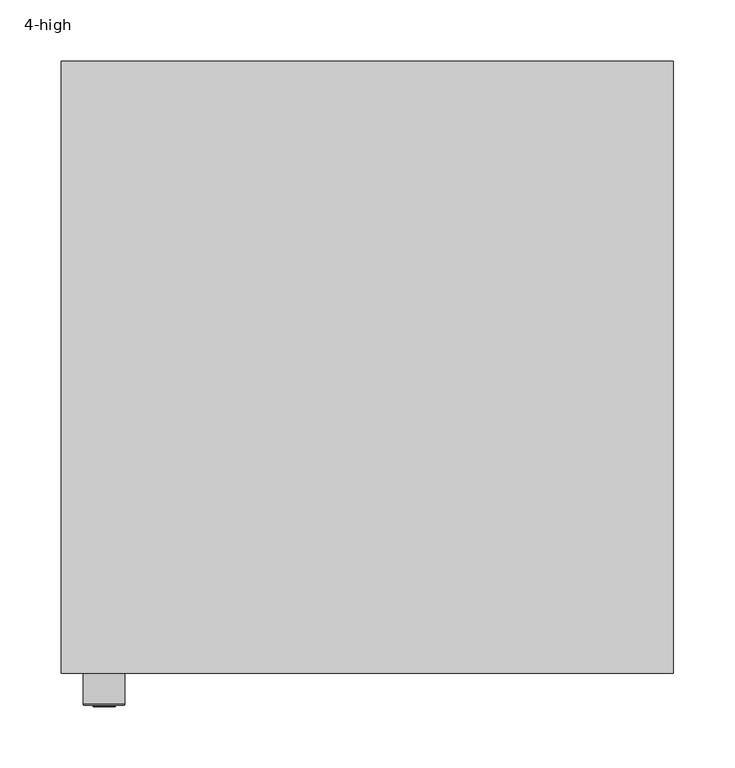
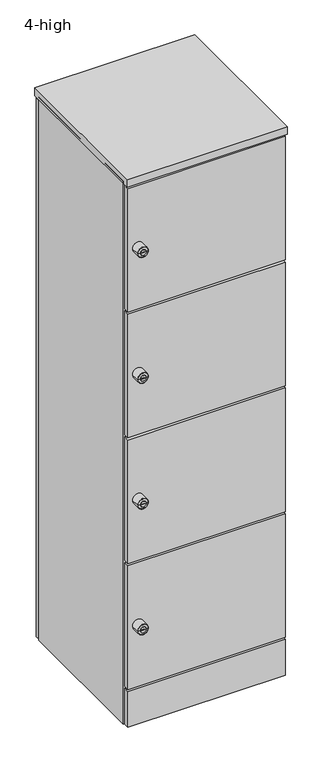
"""IFC4 building model written with IfcOpenShell, lengths in millimetres: furniture geometry, Furniture_Storage_Spacestor_SignatureHotLocker : 4-high."""

import ifcopenshell
import ifcopenshell.guid

model = None  # the IFC model being written
_history = None  # IfcOwnerHistory: only IFC2X3 demands one
_inside = {}  # id of a spatial element -> (the spatial element, [elements in it])
_under = {}  # id of a project, library or spatial element -> (it, [spatial elements below it])
_declared = {}  # id of a project -> (the project, [libraries it declares])
_typed = {}  # id of a type object -> (the type object, [elements of that type])
_made_of = {}  # id of a material, layer set ... -> (it, [elements and type objects made of it])


def new_model(schema):
    """Start an empty IFC model of exactly this schema.

    Asked for "IFC4X3", IfcOpenShell would pick the latest addendum, in which some entities
    have other attributes; the version numbers below select the first issue.
    IFC2X3 requires an IfcOwnerHistory on every rooted entity: one is made here for all.
    """
    global model, _history
    if schema == "IFC4X3":
        model = ifcopenshell.file(schema_version=(4, 3, 0, 0))
    else:
        model = ifcopenshell.file(schema=schema)
    _inside.clear()
    _under.clear()
    _declared.clear()
    _typed.clear()
    _made_of.clear()
    _history = None
    if model.schema == "IFC2X3":
        org = make("IfcOrganization", Name="unknown")
        user = make(
            "IfcPersonAndOrganization",
            ThePerson=make("IfcPerson", FamilyName="unknown"),
            TheOrganization=org,
        )
        app = make(
            "IfcApplication",
            ApplicationDeveloper=org,
            Version="unknown",
            ApplicationFullName="unknown",
            ApplicationIdentifier="unknown",
        )
        _history = make(
            "IfcOwnerHistory",
            OwningUser=user,
            OwningApplication=app,
            ChangeAction="ADDED",
            CreationDate=0,
        )
    return model


def make(cls, **values):
    """One entity of the class cls with the attributes given. An attribute that is None is left unset."""
    return model.create_entity(
        cls, **{name: value for name, value in values.items() if value is not None}
    )


def rooted(cls, **values):
    """An entity with a GlobalId (a new one), such as an element, a storey or a relation."""
    return make(cls, GlobalId=ifcopenshell.guid.new(), OwnerHistory=_history, **values)


def si_unit(unit_type, name, prefix=None):
    """IfcSIUnit, for example si_unit("LENGTHUNIT", "METRE", prefix="MILLI")."""
    return make("IfcSIUnit", UnitType=unit_type, Prefix=prefix, Name=name)


def assignment(units):
    """IfcUnitAssignment: the units of a project."""
    return None if units is None else make("IfcUnitAssignment", Units=units)


def point(xyz):
    """IfcCartesianPoint."""
    return None if xyz is None else make("IfcCartesianPoint", Coordinates=xyz)


def direction(xyz):
    """IfcDirection."""
    return None if xyz is None else make("IfcDirection", DirectionRatios=xyz)


def frame(location, z_axis=None, x_axis=None):
    """IfcAxis2Placement3D, a coordinate frame: its origin and axes. An axis left out is left unset."""
    return make(
        "IfcAxis2Placement3D",
        Location=point(location),
        Axis=direction(z_axis),
        RefDirection=direction(x_axis),
    )


def origin():
    """The frame at (0, 0, 0) with its axes left unset."""
    return frame((0.0, 0.0, 0.0))


def origin_with_axes():
    """The frame at (0, 0, 0) with the z axis (0, 0, 1) and the x axis (1, 0, 0) written out."""
    return frame((0.0, 0.0, 0.0), z_axis=(0.0, 0.0, 1.0), x_axis=(1.0, 0.0, 0.0))


def place(relative_to, where):
    """IfcLocalPlacement: puts the frame where relative to a parent placement (None: the world)."""
    return make(
        "IfcLocalPlacement", PlacementRelTo=relative_to, RelativePlacement=where
    )


def context(
    kind, dimensions, precision=None, world=None, true_north=None, identifier=None
):
    """IfcGeometricRepresentationContext, for example the 3D "Model" context."""
    return make(
        "IfcGeometricRepresentationContext",
        ContextIdentifier=identifier,
        ContextType=kind,
        CoordinateSpaceDimension=dimensions,
        Precision=precision,
        WorldCoordinateSystem=world,
        TrueNorth=true_north,
    )


def project(units=None, contexts=None):
    """IfcProject with its units and contexts."""
    return rooted(
        "IfcProject",
        Name="project",
        RepresentationContexts=contexts,
        UnitsInContext=assignment(units),
    )


def spatial(cls, under=None, at=None, **own):
    """A site, building, storey or space (cls), placed at a placement, below another one or the project."""
    s = rooted(cls, ObjectPlacement=at, **own)
    if under is not None:
        _under.setdefault(under.id(), (under, []))[1].append(s)
    return s


def polyline(points):
    """IfcPolyline through the points."""
    return make("IfcPolyline", Points=[point(p) for p in points])


def circle_curve(where, radius):
    """IfcCircle in the frame where."""
    return make("IfcCircle", Position=where, Radius=radius)


def ellipse_curve(where, semi_axis1, semi_axis2):
    """IfcEllipse in the frame where."""
    return make(
        "IfcEllipse", Position=where, SemiAxis1=semi_axis1, SemiAxis2=semi_axis2
    )


def trimmed(basis, trim1, trim2, sense, master):
    """IfcTrimmedCurve: the piece of a basis curve between two trims."""
    return make(
        "IfcTrimmedCurve",
        BasisCurve=basis,
        Trim1=trim1,
        Trim2=trim2,
        SenseAgreement=sense,
        MasterRepresentation=master,
    )


def outline(outer, holes=None, kind="AREA"):
    """IfcArbitraryClosedProfileDef: a profile drawn as a closed curve; with holes, ...WithVoids."""
    if holes is None:
        return make("IfcArbitraryClosedProfileDef", ProfileType=kind, OuterCurve=outer)
    return make(
        "IfcArbitraryProfileDefWithVoids",
        ProfileType=kind,
        OuterCurve=outer,
        InnerCurves=holes,
    )


def extrude(swept, where, along, depth):
    """IfcExtrudedAreaSolid: the profile swept, set in the frame where, extruded along a direction by depth."""
    return make(
        "IfcExtrudedAreaSolid",
        SweptArea=swept,
        Position=where,
        ExtrudedDirection=direction(along),
        Depth=depth,
    )


def shape(context_of_items, identifier, shape_type, items):
    """IfcShapeRepresentation: the items that make up one representation, for example the "Body"."""
    return make(
        "IfcShapeRepresentation",
        ContextOfItems=context_of_items,
        RepresentationIdentifier=identifier,
        RepresentationType=shape_type,
        Items=items,
    )


def source(mapping_origin, context_of_items, identifier, shape_type, items):
    """IfcRepresentationMap: a shape defined once, which mapped items show again and again."""
    return make(
        "IfcRepresentationMap",
        MappingOrigin=mapping_origin,
        MappedRepresentation=shape(context_of_items, identifier, shape_type, items),
    )


def transform(
    local_origin,
    x_axis=None,
    y_axis=None,
    z_axis=None,
    scale=None,
    scale2=None,
    scale3=None,
    uniform=True,
):
    """IfcCartesianTransformationOperator3D, or its non-uniform kind. x_axis, y_axis, z_axis: its Axis1, 2, 3."""
    if uniform:
        return make(
            "IfcCartesianTransformationOperator3D",
            Axis1=direction(x_axis),
            Axis2=direction(y_axis),
            LocalOrigin=point(local_origin),
            Scale=scale,
            Axis3=direction(z_axis),
        )
    return make(
        "IfcCartesianTransformationOperator3DnonUniform",
        Axis1=direction(x_axis),
        Axis2=direction(y_axis),
        LocalOrigin=point(local_origin),
        Scale=scale,
        Axis3=direction(z_axis),
        Scale2=scale2,
        Scale3=scale3,
    )


def mapped(mapping_source, mapping_target):
    """IfcMappedItem: shows the shape of a source again, moved by a transform."""
    return make(
        "IfcMappedItem", MappingSource=mapping_source, MappingTarget=mapping_target
    )


def made_of(thing, what):
    """Note that an element or type object is made of a material, layer set ...; save() writes the relation."""
    if what is not None:
        _made_of.setdefault(what.id(), (what, []))[1].append(thing)
    return thing


def element(
    cls,
    number,
    at=None,
    inside=None,
    cuts=None,
    type_object=None,
    material=None,
    context=None,
    identifier="Body",
    shape_type=None,
    held_by="IfcProductDefinitionShape",
    body=None,
    shapes=None,
    **own,
):
    """One element of the class cls, such as IfcWall. Its Tag is "e" and its number.

    at: its placement. inside: the storey or other place that contains it. cuts: it is an
    opening in that element (IfcRelVoidsElement). A single representation is given by context,
    identifier, shape_type and body (its items); several are given by shapes. held_by: the class
    of the entity that holds the representations. save() writes the other relations.
    """
    e = rooted(cls, Tag="e%d" % number, ObjectPlacement=at, **own)
    if body is not None:
        shapes = [shape(context, identifier, shape_type, body)]
    if shapes is not None:
        e.Representation = make(held_by, Representations=shapes)
    if inside is not None:
        _inside.setdefault(inside.id(), (inside, []))[1].append(e)
    if cuts is not None:
        rooted(
            "IfcRelVoidsElement", RelatingBuildingElement=cuts, RelatedOpeningElement=e
        )
    if type_object is not None:
        _typed.setdefault(type_object.id(), (type_object, []))[1].append(e)
    return made_of(e, material)


def aggregate(whole, parts):
    """IfcRelAggregates: a whole, such as a stair, and the parts it consists of."""
    return rooted("IfcRelAggregates", RelatingObject=whole, RelatedObjects=parts)


def save(model, path):
    """Write the relations noted so far, then the file.

    IfcRelAggregates (storeys below a building ...), IfcRelContainedInSpatialStructure (elements
    in a storey), IfcRelDefinesByType, IfcRelAssociatesMaterial and IfcRelDeclares: one each for
    every whole, place, type object, material and project.
    """
    for whole, parts in _under.values():
        aggregate(whole, parts)
    for where, things in _inside.values():
        rooted(
            "IfcRelContainedInSpatialStructure",
            RelatedElements=things,
            RelatingStructure=where,
        )
    for kind, things in _typed.values():
        rooted("IfcRelDefinesByType", RelatedObjects=things, RelatingType=kind)
    for what, things in _made_of.values():
        rooted("IfcRelAssociatesMaterial", RelatedObjects=things, RelatingMaterial=what)
    for by, libraries in _declared.values():
        rooted("IfcRelDeclares", RelatingContext=by, RelatedDefinitions=libraries)
    model.write(path)


def plane_surface(at):
    """IfcPlane: the flat surface through the origin of the frame at, square to its z axis."""
    return make("IfcPlane", Position=at)


def cylinder_surface(at, radius):
    """IfcCylindricalSurface: all points at the distance radius from the z axis of the frame at."""
    return make("IfcCylindricalSurface", Position=at, Radius=radius)


def revolved_surface(curve, axis_point, axis_direction):
    """IfcSurfaceOfRevolution: the curve turned about the line through axis_point along axis_direction."""
    return make(
        "IfcSurfaceOfRevolution",
        SweptCurve=make("IfcArbitraryOpenProfileDef", ProfileType="CURVE", Curve=curve),
        AxisPosition=make("IfcAxis1Placement", Location=point(axis_point), Axis=direction(axis_direction)),
    )


def advanced_brep(points, edges, surfaces, faces):
    """IfcAdvancedBrep: a solid bounded by faces that lie on surfaces and meet in shared edges.

    An edge is (start, end): straight between two places in points (the first is 0);
    or (start, end, curve); or (start, end, curve, False) where it runs against its curve.
    A face is (place in surfaces, loops), or (place, loops, False) where it looks against
    its surface's normal. A loop lists edges by number (the first is 1), with a minus sign
    where the edge is run from its end to its start. The first loop is the outer one.
    """
    corners = [point(p) for p in points]
    vertices = [make("IfcVertexPoint", VertexGeometry=c) for c in corners]
    made = []
    for start, end, *more in edges:
        made.append(
            make(
                "IfcEdgeCurve",
                EdgeStart=vertices[start],
                EdgeEnd=vertices[end],
                EdgeGeometry=more[0] if more else make("IfcPolyline", Points=[corners[start], corners[end]]),
                SameSense=more[1] if len(more) > 1 else True,
            )
        )
    hull = []
    for where, loops, *sense in faces:
        bounds = []
        for j, loop in enumerate(loops):
            ring = [make("IfcOrientedEdge", EdgeElement=made[abs(k) - 1], Orientation=k > 0) for k in loop]
            bounds.append(
                make(
                    "IfcFaceOuterBound" if j == 0 else "IfcFaceBound",
                    Bound=make("IfcEdgeLoop", EdgeList=ring),
                    Orientation=True,
                )
            )
        hull.append(make("IfcAdvancedFace", Bounds=bounds, FaceSurface=surfaces[where], SameSense=sense[0] if sense else True))
    return make("IfcAdvancedBrep", Outer=make("IfcClosedShell", CfsFaces=hull))


def furniture_4_high_ba79d616(model_context):
    return source(origin(), model_context, "Body", "SolidModel", [
        extrude(outline(polyline([(489.0, 0.0), (11.0, 0.0), (11.0, 459.0), (489.0, 459.0), (489.0, 0.0)])), frame((0.0, 0.0, 1774.5), z_axis=(0.0, 0.0, 1.0), x_axis=(1.0, 0.0, 0.0)), (0.0, 0.0, 1.0), 22.0),
        extrude(outline(polyline([(489.0, 0.0), (11.0, 0.0), (11.0, 459.0), (489.0, 459.0), (489.0, 0.0)])), frame((0.0, 0.0, 1358.5), z_axis=(0.0, 0.0, 1.0), x_axis=(1.0, 0.0, 0.0)), (0.0, 0.0, 1.0), 22.0),
        extrude(outline(polyline([(489.0, 0.0), (11.0, 0.0), (11.0, 459.0), (489.0, 459.0), (489.0, 0.0)])), frame((0.0, 0.0, 942.5), z_axis=(0.0, 0.0, 1.0), x_axis=(1.0, 0.0, 0.0)), (0.0, 0.0, 1.0), 22.0),
        extrude(outline(polyline([(489.0, 0.0), (11.0, 0.0), (11.0, 459.0), (489.0, 459.0), (489.0, 0.0)])), frame((0.0, 0.0, 526.5), z_axis=(0.0, 0.0, 1.0), x_axis=(1.0, 0.0, 0.0)), (0.0, 0.0, 1.0), 22.0),
        advanced_brep(
        [(18.0, -45.3116344, 1577.5), (52.0, -45.3116344, 1577.5), (52.0, -18.0, 1577.5), (18.0, -18.0, 1577.5), (35.0, -18.0, 1577.5), (26.0252681, -46.3150077, 1577.5), (43.9747319, -46.3150077, 1577.5), (50.9966266, -46.3150077, 1577.5), (19.0033734, -46.3150077, 1577.5), (26.0252681, -47.4703043, 1577.5), (43.9747319, -47.4703043, 1577.5), (30.1754848, -47.4703043, 1577.5), (30.1754848, -47.4703043, 1578.8633438), (39.8245152, -47.4703043, 1578.8633438), (39.8245152, -47.4703043, 1577.5), (39.8245152, -47.4703043, 1576.1366562), (30.1754848, -47.4703043, 1576.1366562), (39.8245152, -27.8604291, 1578.8633438), (30.1754848, -27.8604291, 1578.8633438), (30.1754848, -27.8604291, 1576.1366562), (39.8245152, -27.8604291, 1576.1366562)],
        [
            (0, 1, circle_curve(frame((35.0, -45.3116344, 1577.5), z_axis=(0.0, 1.0, 0.0), x_axis=(1.0, 0.0, 0.0)), 17.0)),
            (1, 2),
            (2, 3, circle_curve(frame((35.0, -18.0, 1577.5), z_axis=(0.0, -1.0, 0.0), x_axis=(1.0, 0.0, 0.0)), 17.0)),
            (3, 0),
            (1, 0, circle_curve(frame((35.0, -45.3116344, 1577.5), z_axis=(0.0, 1.0, 0.0), x_axis=(1.0, 0.0, 0.0)), 17.0)),
            (3, 2, circle_curve(frame((35.0, -18.0, 1577.5), z_axis=(0.0, -1.0, 0.0), x_axis=(1.0, 0.0, 0.0)), 17.0)),
            (2, 4),
            (4, 3),
            (5, 6, circle_curve(frame((35.0, -46.3150077, 1577.5), z_axis=(0.0, 1.0, 0.0), x_axis=(1.0, 0.0, 0.0)), 8.9747319)),
            (6, 7),
            (7, 8, circle_curve(frame((35.0, -46.3150077, 1577.5), z_axis=(0.0, -1.0, 0.0), x_axis=(1.0, 0.0, 0.0)), 15.9966266)),
            (8, 5),
            (6, 5, circle_curve(frame((35.0, -46.3150077, 1577.5), z_axis=(0.0, 1.0, 0.0), x_axis=(1.0, 0.0, 0.0)), 8.9747319)),
            (8, 7, circle_curve(frame((35.0, -46.3150077, 1577.5), z_axis=(0.0, -1.0, 0.0), x_axis=(1.0, 0.0, 0.0)), 15.9966266)),
            (0, 8, circle_curve(frame((19.0033734, -45.3116344, 1577.5), z_axis=(0.0, 0.0, 1.0), x_axis=(-1.0, 0.0, 0.0)), 1.0033734)),
            (7, 1, circle_curve(frame((50.9966266, -45.3116344, 1577.5), z_axis=(0.0, 0.0, 1.0), x_axis=(1.0, 0.0, 0.0)), 1.0033734)),
            (5, 9),
            (9, 10, circle_curve(frame((35.0, -47.4703043, 1577.5), z_axis=(0.0, 1.0, 0.0), x_axis=(1.0, 0.0, 0.0)), 8.9747319)),
            (10, 6),
            (10, 9, circle_curve(frame((35.0, -47.4703043, 1577.5), z_axis=(0.0, 1.0, 0.0), x_axis=(1.0, 0.0, 0.0)), 8.9747319)),
            (9, 11),
            (11, 12),
            (12, 13),
            (13, 14),
            (14, 10),
            (14, 15),
            (15, 16),
            (16, 11),
            (17, 18),
            (18, 19),
            (19, 20),
            (20, 17),
            (17, 13),
            (12, 18),
            (16, 19),
            (15, 20),
        ],
        [
            cylinder_surface(frame((35.0, -2627.0581012, 1577.5), z_axis=(0.0, -1.0, 0.0), x_axis=(1.0, 0.0, 0.0)), 17.0),
            plane_surface(frame((35.0, -18.0, 1577.5), z_axis=(0.0, 1.0, 0.0), x_axis=(1.0, 0.0, 0.0))),
            plane_surface(frame((35.0, -46.3150077, 1577.5), z_axis=(0.0, -1.0, 0.0), x_axis=(1.0, 0.0, 0.0))),
            revolved_surface(trimmed(ellipse_curve(frame((50.9966266, -45.3116344, 1577.5), z_axis=(0.0, 0.0, -1.0), x_axis=(1.0, 0.0, 0.0)), 1.0033734, 1.0033734), [point((52.0, -45.3116344, 1577.5))], [point((50.9966266, -46.3150077, 1577.5))], True, "CARTESIAN"), (35.0, -2627.0581012, 1577.5), (0.0, -1.0, 0.0)),
            cylinder_surface(frame((35.0, -2627.0581012, 1577.5), z_axis=(0.0, -1.0, 0.0), x_axis=(1.0, 0.0, 0.0)), 8.9747319),
            plane_surface(frame((35.0, -47.4703043, 1577.5), z_axis=(0.0, -1.0, 0.0), x_axis=(1.0, 0.0, 0.0))),
            plane_surface(frame((30.5434751, -27.8604291, 1578.8633438), z_axis=(0.0, -1.0, 0.0), x_axis=(1.0, 0.0, 0.0))),
            plane_surface(frame((39.8245152, -49.2046383, 1578.8633438), z_axis=(0.0, 0.0, -1.0), x_axis=(0.0, 1.0, 0.0))),
            plane_surface(frame((30.1754848, -49.2046383, 1578.8633438), z_axis=(1.0, 0.0, 0.0), x_axis=(0.0, 1.0, 0.0))),
            plane_surface(frame((30.1754848, -49.2046383, 1576.1366562), z_axis=(0.0, 0.0, 1.0), x_axis=(0.0, 1.0, 0.0))),
            plane_surface(frame((39.8245152, -49.2046383, 1576.1366562), z_axis=(-1.0, 0.0, 0.0), x_axis=(0.0, 1.0, 0.0))),
        ],
        [
            (0, [[1, 2, 3, 4]]),
            (0, [[-2, 5, -4, 6]]),
            (1, [[-3, 7, 8]]),
            (1, [[-6, -8, -7]]),
            (2, [[9, 10, 11, 12]]),
            (2, [[-10, 13, -12, 14]]),
            (3, [[-1, 15, -11, 16]]),
            (3, [[-5, -16, -14, -15]]),
            (4, [[-9, 17, 18, 19]]),
            (4, [[-13, -19, 20, -17]]),
            (5, [[-18, 21, 22, 23, 24, 25]]),
            (5, [[-20, -25, 26, 27, 28, -21]]),
            (6, [[29, 30, 31, 32]]),
            (7, [[-29, 33, -23, 34]]),
            (8, [[-30, -34, -22, -28, 35]]),
            (9, [[-31, -35, -27, 36]]),
            (10, [[-32, -36, -26, -24, -33]]),
        ],
    ),
        advanced_brep(
        [(18.0, -45.3116344, 1161.5), (52.0, -45.3116344, 1161.5), (52.0, -18.0, 1161.5), (18.0, -18.0, 1161.5), (35.0, -18.0, 1161.5), (26.0252681, -46.3150077, 1161.5), (43.9747319, -46.3150077, 1161.5), (50.9966266, -46.3150077, 1161.5), (19.0033734, -46.3150077, 1161.5), (26.0252681, -47.4703043, 1161.5), (43.9747319, -47.4703043, 1161.5), (30.1754848, -47.4703043, 1161.5), (30.1754848, -47.4703043, 1162.8633438), (39.8245152, -47.4703043, 1162.8633438), (39.8245152, -47.4703043, 1161.5), (39.8245152, -47.4703043, 1160.1366562), (30.1754848, -47.4703043, 1160.1366562), (39.8245152, -27.8604291, 1162.8633438), (30.1754848, -27.8604291, 1162.8633438), (30.1754848, -27.8604291, 1160.1366562), (39.8245152, -27.8604291, 1160.1366562)],
        [
            (0, 1, circle_curve(frame((35.0, -45.3116344, 1161.5), z_axis=(0.0, 1.0, 0.0), x_axis=(1.0, 0.0, 0.0)), 17.0)),
            (1, 2),
            (2, 3, circle_curve(frame((35.0, -18.0, 1161.5), z_axis=(0.0, -1.0, 0.0), x_axis=(1.0, 0.0, 0.0)), 17.0)),
            (3, 0),
            (1, 0, circle_curve(frame((35.0, -45.3116344, 1161.5), z_axis=(0.0, 1.0, 0.0), x_axis=(1.0, 0.0, 0.0)), 17.0)),
            (3, 2, circle_curve(frame((35.0, -18.0, 1161.5), z_axis=(0.0, -1.0, 0.0), x_axis=(1.0, 0.0, 0.0)), 17.0)),
            (2, 4),
            (4, 3),
            (5, 6, circle_curve(frame((35.0, -46.3150077, 1161.5), z_axis=(0.0, 1.0, 0.0), x_axis=(1.0, 0.0, 0.0)), 8.9747319)),
            (6, 7),
            (7, 8, circle_curve(frame((35.0, -46.3150077, 1161.5), z_axis=(0.0, -1.0, 0.0), x_axis=(1.0, 0.0, 0.0)), 15.9966266)),
            (8, 5),
            (6, 5, circle_curve(frame((35.0, -46.3150077, 1161.5), z_axis=(0.0, 1.0, 0.0), x_axis=(1.0, 0.0, 0.0)), 8.9747319)),
            (8, 7, circle_curve(frame((35.0, -46.3150077, 1161.5), z_axis=(0.0, -1.0, 0.0), x_axis=(1.0, 0.0, 0.0)), 15.9966266)),
            (0, 8, circle_curve(frame((19.0033734, -45.3116344, 1161.5), z_axis=(0.0, 0.0, 1.0), x_axis=(-1.0, 0.0, 0.0)), 1.0033734)),
            (7, 1, circle_curve(frame((50.9966266, -45.3116344, 1161.5), z_axis=(0.0, 0.0, 1.0), x_axis=(1.0, 0.0, 0.0)), 1.0033734)),
            (5, 9),
            (9, 10, circle_curve(frame((35.0, -47.4703043, 1161.5), z_axis=(0.0, 1.0, 0.0), x_axis=(1.0, 0.0, 0.0)), 8.9747319)),
            (10, 6),
            (10, 9, circle_curve(frame((35.0, -47.4703043, 1161.5), z_axis=(0.0, 1.0, 0.0), x_axis=(1.0, 0.0, 0.0)), 8.9747319)),
            (9, 11),
            (11, 12),
            (12, 13),
            (13, 14),
            (14, 10),
            (14, 15),
            (15, 16),
            (16, 11),
            (17, 18),
            (18, 19),
            (19, 20),
            (20, 17),
            (17, 13),
            (12, 18),
            (16, 19),
            (15, 20),
        ],
        [
            cylinder_surface(frame((35.0, -2627.0581012, 1161.5), z_axis=(0.0, -1.0, 0.0), x_axis=(1.0, 0.0, 0.0)), 17.0),
            plane_surface(frame((35.0, -18.0, 1161.5), z_axis=(0.0, 1.0, 0.0), x_axis=(1.0, 0.0, 0.0))),
            plane_surface(frame((35.0, -46.3150077, 1161.5), z_axis=(0.0, -1.0, 0.0), x_axis=(1.0, 0.0, 0.0))),
            revolved_surface(trimmed(ellipse_curve(frame((50.9966266, -45.3116344, 1161.5), z_axis=(0.0, 0.0, -1.0), x_axis=(1.0, 0.0, 0.0)), 1.0033734, 1.0033734), [point((52.0, -45.3116344, 1161.5))], [point((50.9966266, -46.3150077, 1161.5))], True, "CARTESIAN"), (35.0, -2627.0581012, 1161.5), (0.0, -1.0, 0.0)),
            cylinder_surface(frame((35.0, -2627.0581012, 1161.5), z_axis=(0.0, -1.0, 0.0), x_axis=(1.0, 0.0, 0.0)), 8.9747319),
            plane_surface(frame((35.0, -47.4703043, 1161.5), z_axis=(0.0, -1.0, 0.0), x_axis=(1.0, 0.0, 0.0))),
            plane_surface(frame((30.5434751, -27.8604291, 1162.8633438), z_axis=(0.0, -1.0, 0.0), x_axis=(1.0, 0.0, 0.0))),
            plane_surface(frame((39.8245152, -49.2046383, 1162.8633438), z_axis=(0.0, 0.0, -1.0), x_axis=(0.0, 1.0, 0.0))),
            plane_surface(frame((30.1754848, -49.2046383, 1162.8633438), z_axis=(1.0, 0.0, 0.0), x_axis=(0.0, 1.0, 0.0))),
            plane_surface(frame((30.1754848, -49.2046383, 1160.1366562), z_axis=(0.0, 0.0, 1.0), x_axis=(0.0, 1.0, 0.0))),
            plane_surface(frame((39.8245152, -49.2046383, 1160.1366562), z_axis=(-1.0, 0.0, 0.0), x_axis=(0.0, 1.0, 0.0))),
        ],
        [
            (0, [[1, 2, 3, 4]]),
            (0, [[-2, 5, -4, 6]]),
            (1, [[-3, 7, 8]]),
            (1, [[-6, -8, -7]]),
            (2, [[9, 10, 11, 12]]),
            (2, [[-10, 13, -12, 14]]),
            (3, [[-1, 15, -11, 16]]),
            (3, [[-5, -16, -14, -15]]),
            (4, [[-9, 17, 18, 19]]),
            (4, [[-13, -19, 20, -17]]),
            (5, [[-18, 21, 22, 23, 24, 25]]),
            (5, [[-20, -25, 26, 27, 28, -21]]),
            (6, [[29, 30, 31, 32]]),
            (7, [[-29, 33, -23, 34]]),
            (8, [[-30, -34, -22, -28, 35]]),
            (9, [[-31, -35, -27, 36]]),
            (10, [[-32, -36, -26, -24, -33]]),
        ],
    ),
        advanced_brep(
        [(18.0, -45.3116344, 745.5), (52.0, -45.3116344, 745.5), (52.0, -18.0, 745.5), (18.0, -18.0, 745.5), (35.0, -18.0, 745.5), (26.0252681, -46.3150077, 745.5), (43.9747319, -46.3150077, 745.5), (50.9966266, -46.3150077, 745.5), (19.0033734, -46.3150077, 745.5), (26.0252681, -47.4703043, 745.5), (43.9747319, -47.4703043, 745.5), (30.1754848, -47.4703043, 745.5), (30.1754848, -47.4703043, 746.8633438), (39.8245152, -47.4703043, 746.8633438), (39.8245152, -47.4703043, 745.5), (39.8245152, -47.4703043, 744.1366562), (30.1754848, -47.4703043, 744.1366562), (39.8245152, -27.8604291, 746.8633438), (30.1754848, -27.8604291, 746.8633438), (30.1754848, -27.8604291, 744.1366562), (39.8245152, -27.8604291, 744.1366562)],
        [
            (0, 1, circle_curve(frame((35.0, -45.3116344, 745.5), z_axis=(0.0, 1.0, 0.0), x_axis=(1.0, 0.0, 0.0)), 17.0)),
            (1, 2),
            (2, 3, circle_curve(frame((35.0, -18.0, 745.5), z_axis=(0.0, -1.0, 0.0), x_axis=(1.0, 0.0, 0.0)), 17.0)),
            (3, 0),
            (1, 0, circle_curve(frame((35.0, -45.3116344, 745.5), z_axis=(0.0, 1.0, 0.0), x_axis=(1.0, 0.0, 0.0)), 17.0)),
            (3, 2, circle_curve(frame((35.0, -18.0, 745.5), z_axis=(0.0, -1.0, 0.0), x_axis=(1.0, 0.0, 0.0)), 17.0)),
            (2, 4),
            (4, 3),
            (5, 6, circle_curve(frame((35.0, -46.3150077, 745.5), z_axis=(0.0, 1.0, 0.0), x_axis=(1.0, 0.0, 0.0)), 8.9747319)),
            (6, 7),
            (7, 8, circle_curve(frame((35.0, -46.3150077, 745.5), z_axis=(0.0, -1.0, 0.0), x_axis=(1.0, 0.0, 0.0)), 15.9966266)),
            (8, 5),
            (6, 5, circle_curve(frame((35.0, -46.3150077, 745.5), z_axis=(0.0, 1.0, 0.0), x_axis=(1.0, 0.0, 0.0)), 8.9747319)),
            (8, 7, circle_curve(frame((35.0, -46.3150077, 745.5), z_axis=(0.0, -1.0, 0.0), x_axis=(1.0, 0.0, 0.0)), 15.9966266)),
            (0, 8, circle_curve(frame((19.0033734, -45.3116344, 745.5), z_axis=(0.0, 0.0, 1.0), x_axis=(-1.0, 0.0, 0.0)), 1.0033734)),
            (7, 1, circle_curve(frame((50.9966266, -45.3116344, 745.5), z_axis=(0.0, 0.0, 1.0), x_axis=(1.0, 0.0, 0.0)), 1.0033734)),
            (5, 9),
            (9, 10, circle_curve(frame((35.0, -47.4703043, 745.5), z_axis=(0.0, 1.0, 0.0), x_axis=(1.0, 0.0, 0.0)), 8.9747319)),
            (10, 6),
            (10, 9, circle_curve(frame((35.0, -47.4703043, 745.5), z_axis=(0.0, 1.0, 0.0), x_axis=(1.0, 0.0, 0.0)), 8.9747319)),
            (9, 11),
            (11, 12),
            (12, 13),
            (13, 14),
            (14, 10),
            (14, 15),
            (15, 16),
            (16, 11),
            (17, 18),
            (18, 19),
            (19, 20),
            (20, 17),
            (17, 13),
            (12, 18),
            (16, 19),
            (15, 20),
        ],
        [
            cylinder_surface(frame((35.0, -2627.0581012, 745.5), z_axis=(0.0, -1.0, 0.0), x_axis=(1.0, 0.0, 0.0)), 17.0),
            plane_surface(frame((35.0, -18.0, 745.5), z_axis=(0.0, 1.0, 0.0), x_axis=(1.0, 0.0, 0.0))),
            plane_surface(frame((35.0, -46.3150077, 745.5), z_axis=(0.0, -1.0, 0.0), x_axis=(1.0, 0.0, 0.0))),
            revolved_surface(trimmed(ellipse_curve(frame((50.9966266, -45.3116344, 745.5), z_axis=(0.0, 0.0, -1.0), x_axis=(1.0, 0.0, 0.0)), 1.0033734, 1.0033734), [point((52.0, -45.3116344, 745.5))], [point((50.9966266, -46.3150077, 745.5))], True, "CARTESIAN"), (35.0, -2627.0581012, 745.5), (0.0, -1.0, 0.0)),
            cylinder_surface(frame((35.0, -2627.0581012, 745.5), z_axis=(0.0, -1.0, 0.0), x_axis=(1.0, 0.0, 0.0)), 8.9747319),
            plane_surface(frame((35.0, -47.4703043, 745.5), z_axis=(0.0, -1.0, 0.0), x_axis=(1.0, 0.0, 0.0))),
            plane_surface(frame((30.5434751, -27.8604291, 746.8633438), z_axis=(0.0, -1.0, 0.0), x_axis=(1.0, 0.0, 0.0))),
            plane_surface(frame((39.8245152, -49.2046383, 746.8633438), z_axis=(0.0, 0.0, -1.0), x_axis=(0.0, 1.0, 0.0))),
            plane_surface(frame((30.1754848, -49.2046383, 746.8633438), z_axis=(1.0, 0.0, 0.0), x_axis=(0.0, 1.0, 0.0))),
            plane_surface(frame((30.1754848, -49.2046383, 744.1366562), z_axis=(0.0, 0.0, 1.0), x_axis=(0.0, 1.0, 0.0))),
            plane_surface(frame((39.8245152, -49.2046383, 744.1366562), z_axis=(-1.0, 0.0, 0.0), x_axis=(0.0, 1.0, 0.0))),
        ],
        [
            (0, [[1, 2, 3, 4]]),
            (0, [[-2, 5, -4, 6]]),
            (1, [[-3, 7, 8]]),
            (1, [[-6, -8, -7]]),
            (2, [[9, 10, 11, 12]]),
            (2, [[-10, 13, -12, 14]]),
            (3, [[-1, 15, -11, 16]]),
            (3, [[-5, -16, -14, -15]]),
            (4, [[-9, 17, 18, 19]]),
            (4, [[-13, -19, 20, -17]]),
            (5, [[-18, 21, 22, 23, 24, 25]]),
            (5, [[-20, -25, 26, 27, 28, -21]]),
            (6, [[29, 30, 31, 32]]),
            (7, [[-29, 33, -23, 34]]),
            (8, [[-30, -34, -22, -28, 35]]),
            (9, [[-31, -35, -27, 36]]),
            (10, [[-32, -36, -26, -24, -33]]),
        ],
    ),
        advanced_brep(
        [(18.0, -45.3116344, 329.5), (52.0, -45.3116344, 329.5), (52.0, -18.0, 329.5), (18.0, -18.0, 329.5), (35.0, -18.0, 329.5), (26.0252681, -46.3150077, 329.5), (43.9747319, -46.3150077, 329.5), (50.9966266, -46.3150077, 329.5), (19.0033734, -46.3150077, 329.5), (26.0252681, -47.4703043, 329.5), (43.9747319, -47.4703043, 329.5), (30.1754848, -47.4703043, 329.5), (30.1754848, -47.4703043, 330.8633438), (39.8245152, -47.4703043, 330.8633438), (39.8245152, -47.4703043, 329.5), (39.8245152, -47.4703043, 328.1366562), (30.1754848, -47.4703043, 328.1366562), (39.8245152, -27.8604291, 330.8633438), (30.1754848, -27.8604291, 330.8633438), (30.1754848, -27.8604291, 328.1366562), (39.8245152, -27.8604291, 328.1366562)],
        [
            (0, 1, circle_curve(frame((35.0, -45.3116344, 329.5), z_axis=(0.0, 1.0, 0.0), x_axis=(1.0, 0.0, 0.0)), 17.0)),
            (1, 2),
            (2, 3, circle_curve(frame((35.0, -18.0, 329.5), z_axis=(0.0, -1.0, 0.0), x_axis=(1.0, 0.0, 0.0)), 17.0)),
            (3, 0),
            (1, 0, circle_curve(frame((35.0, -45.3116344, 329.5), z_axis=(0.0, 1.0, 0.0), x_axis=(1.0, 0.0, 0.0)), 17.0)),
            (3, 2, circle_curve(frame((35.0, -18.0, 329.5), z_axis=(0.0, -1.0, 0.0), x_axis=(1.0, 0.0, 0.0)), 17.0)),
            (2, 4),
            (4, 3),
            (5, 6, circle_curve(frame((35.0, -46.3150077, 329.5), z_axis=(0.0, 1.0, 0.0), x_axis=(1.0, 0.0, 0.0)), 8.9747319)),
            (6, 7),
            (7, 8, circle_curve(frame((35.0, -46.3150077, 329.5), z_axis=(0.0, -1.0, 0.0), x_axis=(1.0, 0.0, 0.0)), 15.9966266)),
            (8, 5),
            (6, 5, circle_curve(frame((35.0, -46.3150077, 329.5), z_axis=(0.0, 1.0, 0.0), x_axis=(1.0, 0.0, 0.0)), 8.9747319)),
            (8, 7, circle_curve(frame((35.0, -46.3150077, 329.5), z_axis=(0.0, -1.0, 0.0), x_axis=(1.0, 0.0, 0.0)), 15.9966266)),
            (0, 8, circle_curve(frame((19.0033734, -45.3116344, 329.5), z_axis=(0.0, 0.0, 1.0), x_axis=(-1.0, 0.0, 0.0)), 1.0033734)),
            (7, 1, circle_curve(frame((50.9966266, -45.3116344, 329.5), z_axis=(0.0, 0.0, 1.0), x_axis=(1.0, 0.0, 0.0)), 1.0033734)),
            (5, 9),
            (9, 10, circle_curve(frame((35.0, -47.4703043, 329.5), z_axis=(0.0, 1.0, 0.0), x_axis=(1.0, 0.0, 0.0)), 8.9747319)),
            (10, 6),
            (10, 9, circle_curve(frame((35.0, -47.4703043, 329.5), z_axis=(0.0, 1.0, 0.0), x_axis=(1.0, 0.0, 0.0)), 8.9747319)),
            (9, 11),
            (11, 12),
            (12, 13),
            (13, 14),
            (14, 10),
            (14, 15),
            (15, 16),
            (16, 11),
            (17, 18),
            (18, 19),
            (19, 20),
            (20, 17),
            (17, 13),
            (12, 18),
            (16, 19),
            (15, 20),
        ],
        [
            cylinder_surface(frame((35.0, -2627.0581012, 329.5), z_axis=(0.0, -1.0, 0.0), x_axis=(1.0, 0.0, 0.0)), 17.0),
            plane_surface(frame((35.0, -18.0, 329.5), z_axis=(0.0, 1.0, 0.0), x_axis=(1.0, 0.0, 0.0))),
            plane_surface(frame((35.0, -46.3150077, 329.5), z_axis=(0.0, -1.0, 0.0), x_axis=(1.0, 0.0, 0.0))),
            revolved_surface(trimmed(ellipse_curve(frame((50.9966266, -45.3116344, 329.5), z_axis=(0.0, 0.0, -1.0), x_axis=(1.0, 0.0, 0.0)), 1.0033734, 1.0033734), [point((52.0, -45.3116344, 329.5))], [point((50.9966266, -46.3150077, 329.5))], True, "CARTESIAN"), (35.0, -2627.0581012, 329.5), (0.0, -1.0, 0.0)),
            cylinder_surface(frame((35.0, -2627.0581012, 329.5), z_axis=(0.0, -1.0, 0.0), x_axis=(1.0, 0.0, 0.0)), 8.9747319),
            plane_surface(frame((35.0, -47.4703043, 329.5), z_axis=(0.0, -1.0, 0.0), x_axis=(1.0, 0.0, 0.0))),
            plane_surface(frame((30.5434751, -27.8604291, 330.8633438), z_axis=(0.0, -1.0, 0.0), x_axis=(1.0, 0.0, 0.0))),
            plane_surface(frame((39.8245152, -49.2046383, 330.8633438), z_axis=(0.0, 0.0, -1.0), x_axis=(0.0, 1.0, 0.0))),
            plane_surface(frame((30.1754848, -49.2046383, 330.8633438), z_axis=(1.0, 0.0, 0.0), x_axis=(0.0, 1.0, 0.0))),
            plane_surface(frame((30.1754848, -49.2046383, 328.1366562), z_axis=(0.0, 0.0, 1.0), x_axis=(0.0, 1.0, 0.0))),
            plane_surface(frame((39.8245152, -49.2046383, 328.1366562), z_axis=(-1.0, 0.0, 0.0), x_axis=(0.0, 1.0, 0.0))),
        ],
        [
            (0, [[1, 2, 3, 4]]),
            (0, [[-2, 5, -4, 6]]),
            (1, [[-3, 7, 8]]),
            (1, [[-6, -8, -7]]),
            (2, [[9, 10, 11, 12]]),
            (2, [[-10, 13, -12, 14]]),
            (3, [[-1, 15, -11, 16]]),
            (3, [[-5, -16, -14, -15]]),
            (4, [[-9, 17, 18, 19]]),
            (4, [[-13, -19, 20, -17]]),
            (5, [[-18, 21, 22, 23, 24, 25]]),
            (5, [[-20, -25, 26, 27, 28, -21]]),
            (6, [[29, 30, 31, 32]]),
            (7, [[-29, 33, -23, 34]]),
            (8, [[-30, -34, -22, -28, 35]]),
            (9, [[-31, -35, -27, 36]]),
            (10, [[-32, -36, -26, -24, -33]]),
        ],
    ),
        extrude(outline(polyline([(496.5, -18.0), (3.5, -18.0), (3.5, 0.0), (496.5, 0.0), (496.5, -18.0)])), frame((0.0, 0.0, 1373.0), z_axis=(0.0, 0.0, 1.0), x_axis=(1.0, 0.0, 0.0)), (0.0, 0.0, 1.0), 409.0),
        extrude(outline(polyline([(496.5, -18.0), (3.5, -18.0), (3.5, 0.0), (496.5, 0.0), (496.5, -18.0)])), frame((0.0, 0.0, 957.0), z_axis=(0.0, 0.0, 1.0), x_axis=(1.0, 0.0, 0.0)), (0.0, 0.0, 1.0), 409.0),
        extrude(outline(polyline([(496.5, -18.0), (3.5, -18.0), (3.5, 0.0), (496.5, 0.0), (496.5, -18.0)])), frame((0.0, 0.0, 541.0), z_axis=(0.0, 0.0, 1.0), x_axis=(1.0, 0.0, 0.0)), (0.0, 0.0, 1.0), 409.0),
        extrude(outline(polyline([(496.5, -18.0), (3.5, -18.0), (3.5, 0.0), (496.5, 0.0), (496.5, -18.0)])), frame((0.0, 0.0, 125.0), z_axis=(0.0, 0.0, 1.0), x_axis=(1.0, 0.0, 0.0)), (0.0, 0.0, 1.0), 409.0),
        extrude(outline(polyline([(489.0, 0.0), (11.0, 0.0), (11.0, 459.0), (489.0, 459.0), (489.0, 0.0)])), frame((0.0, 0.0, 110.5), z_axis=(0.0, 0.0, 1.0), x_axis=(1.0, 0.0, 0.0)), (0.0, 0.0, 1.0), 22.0),
        extrude(outline(polyline([(496.5, 459.0), (3.5, 459.0), (3.5, 477.0), (496.5, 477.0), (496.5, 459.0)])), origin_with_axes(), (0.0, 0.0, 1.0), 1782.0),
        extrude(outline(polyline([(496.5, -18.0), (3.5, -18.0), (3.5, 0.0), (496.5, 0.0), (496.5, -18.0)])), origin_with_axes(), (0.0, 0.0, 1.0), 118.0),
        extrude(outline(polyline([(500.0, -20.5), (0.0, -20.5), (0.0, 479.5), (500.0, 479.5), (500.0, -20.5)])), frame((0.0, 0.0, 1789.0), z_axis=(0.0, 0.0, 1.0), x_axis=(1.0, 0.0, 0.0)), (0.0, 0.0, 1.0), 25.5),
        extrude(outline(polyline([(500.0, 0.0), (489.0, 0.0), (489.0, 459.0), (500.0, 459.0), (500.0, 0.0)])), origin_with_axes(), (0.0, 0.0, 1.0), 1796.5),
        extrude(outline(polyline([(11.0, 0.0), (0.0, 0.0), (0.0, 459.0), (11.0, 459.0), (11.0, 0.0)])), origin_with_axes(), (0.0, 0.0, 1.0), 1796.5),
    ])


if __name__ == "__main__":
    model = new_model("IFC4")
    model_context = context("Model", 3, world=origin())
    ifc_project = project(units=[si_unit("LENGTHUNIT", "METRE", prefix="MILLI")], contexts=[model_context])
    site = spatial("IfcSite", under=ifc_project)
    building = spatial("IfcBuilding", under=site)
    placement = place(None, origin())
    furniture_4_high_shape = furniture_4_high_ba79d616(model_context)
    element("IfcFurniture", 1, ObjectType="Furniture_Storage_Spacestor_SignatureHotLocker : 4-high", at=placement, inside=building, context=model_context, shape_type="MappedRepresentation", body=[
        mapped(furniture_4_high_shape, transform((0.0, 0.0, 0.0), x_axis=(1.0, 0.0, 0.0), y_axis=(0.0, 1.0, 0.0), z_axis=(0.0, 0.0, 1.0))),
    ])
    save(model, "model.ifc")
